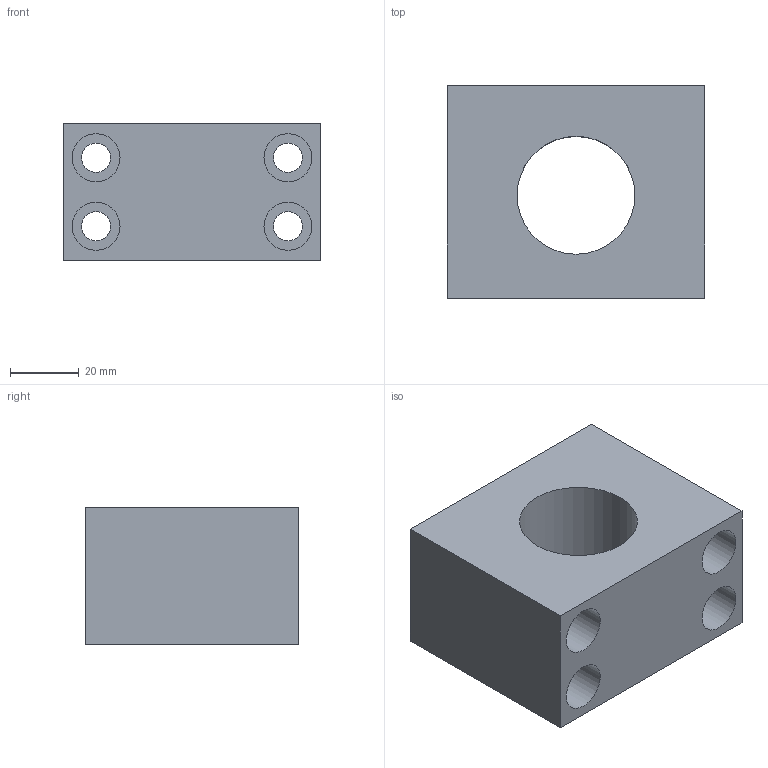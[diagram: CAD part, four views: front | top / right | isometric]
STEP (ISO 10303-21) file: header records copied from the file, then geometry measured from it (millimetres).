
FILE_DESCRIPTION(/* description */ (''),/* implementation_level */ '2;1');
FILE_NAME(/* name */ 'MGS20-M6.stp',/* time_stamp */ '2017-01-03T09:46:23+08:00',/* author */ (''),/* organization */ (''),/* preprocessor_version */ 'ST-DEVELOPER v15',/* originating_system */ 'SIEMENS PLM Software NX 8.5',/* authorisation */ '');
FILE_SCHEMA (('AUTOMOTIVE_DESIGN { 1 0 10303 214 3 1 1 1 }'));
Length unit declared in the file: millimetre
Products named in the file (1): Admi176C94C16gsu
Bounding box: 75 x 62 x 40 mm (x, y, z)
Volume: 126827.4 mm3; surface area: 31506.7 mm2
Topology: 1 solids, 1 shells, 51 faces, 113 edges, 78 vertices
Faces by surface type: cylinder 25, plane 20, cone 6
Full cylindrical faces by diameter (mm): 5 x6, 6 x6, 8.5 x4, 10 x4, 14 x4, 34.4 x1
Entity records: 1182 total; most frequent: DIRECTION 216, CARTESIAN_POINT 178, ORIENTED_EDGE 124, FACE_BOUND 110, EDGE_LOOP 106, AXIS2_PLACEMENT_3D 102, VERTEX_POINT 64, EDGE_CURVE 62
